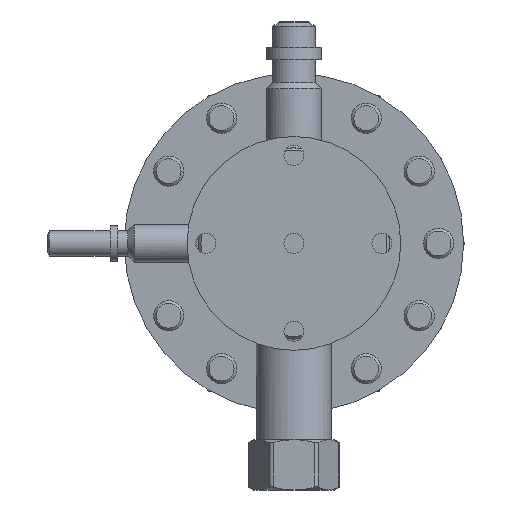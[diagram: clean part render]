
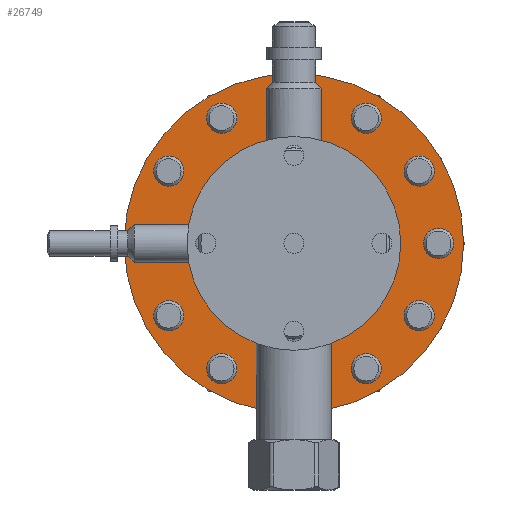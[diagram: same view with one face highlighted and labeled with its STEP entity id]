
A CAD part, front view. The second image highlights one B-rep face of the part: STEP entity #26749.
In plain terms, the highlighted planar face has unit normal (0, -1, 0).
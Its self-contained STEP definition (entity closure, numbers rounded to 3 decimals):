
#2634=FACE_BOUND('',#5941,.T.);
#2635=FACE_BOUND('',#5942,.T.);
#2636=FACE_BOUND('',#5943,.T.);
#2637=FACE_BOUND('',#5944,.T.);
#2638=FACE_BOUND('',#5945,.T.);
#2639=FACE_BOUND('',#5946,.T.);
#2640=FACE_BOUND('',#5947,.T.);
#2641=FACE_BOUND('',#5948,.T.);
#2642=FACE_BOUND('',#5949,.T.);
#2643=FACE_BOUND('',#5950,.T.);
#2644=FACE_BOUND('',#5951,.T.);
#2645=FACE_BOUND('',#5952,.T.);
#2646=FACE_BOUND('',#5953,.T.);
#4187=FACE_OUTER_BOUND('',#5940,.T.);
#5940=EDGE_LOOP('',(#24345));
#5941=EDGE_LOOP('',(#24346));
#5942=EDGE_LOOP('',(#24347));
#5943=EDGE_LOOP('',(#24348));
#5944=EDGE_LOOP('',(#24349));
#5945=EDGE_LOOP('',(#24350));
#5946=EDGE_LOOP('',(#24351));
#5947=EDGE_LOOP('',(#24352));
#5948=EDGE_LOOP('',(#24353));
#5949=EDGE_LOOP('',(#24354));
#5950=EDGE_LOOP('',(#24355));
#5951=EDGE_LOOP('',(#24356));
#5952=EDGE_LOOP('',(#24357));
#5953=EDGE_LOOP('',(#24358));
#9975=CIRCLE('',#27868,41.451);
#10019=CIRCLE('',#27973,6.);
#10028=CIRCLE('',#27999,6.);
#10037=CIRCLE('',#28025,6.);
#10046=CIRCLE('',#28051,6.);
#10055=CIRCLE('',#28077,6.);
#10064=CIRCLE('',#28103,6.);
#10073=CIRCLE('',#28129,6.);
#10082=CIRCLE('',#28155,6.);
#10091=CIRCLE('',#28181,6.);
#10100=CIRCLE('',#28207,6.);
#10109=CIRCLE('',#28233,6.);
#10118=CIRCLE('',#28258,6.);
#10126=CIRCLE('',#28283,67.5);
#12465=VERTEX_POINT('',#59247);
#12525=VERTEX_POINT('',#59563);
#12540=VERTEX_POINT('',#59646);
#12555=VERTEX_POINT('',#59729);
#12570=VERTEX_POINT('',#59812);
#12585=VERTEX_POINT('',#59895);
#12600=VERTEX_POINT('',#59978);
#12615=VERTEX_POINT('',#60061);
#12630=VERTEX_POINT('',#60144);
#12645=VERTEX_POINT('',#60227);
#12660=VERTEX_POINT('',#60310);
#12675=VERTEX_POINT('',#60393);
#12690=VERTEX_POINT('',#60475);
#12704=VERTEX_POINT('',#60556);
#16190=EDGE_CURVE('',#12465,#12465,#9975,.T.);
#16270=EDGE_CURVE('',#12525,#12525,#10019,.T.);
#16297=EDGE_CURVE('',#12540,#12540,#10028,.T.);
#16324=EDGE_CURVE('',#12555,#12555,#10037,.T.);
#16351=EDGE_CURVE('',#12570,#12570,#10046,.T.);
#16378=EDGE_CURVE('',#12585,#12585,#10055,.T.);
#16405=EDGE_CURVE('',#12600,#12600,#10064,.T.);
#16432=EDGE_CURVE('',#12615,#12615,#10073,.T.);
#16459=EDGE_CURVE('',#12630,#12630,#10082,.T.);
#16486=EDGE_CURVE('',#12645,#12645,#10091,.T.);
#16513=EDGE_CURVE('',#12660,#12660,#10100,.T.);
#16540=EDGE_CURVE('',#12675,#12675,#10109,.T.);
#16567=EDGE_CURVE('',#12690,#12690,#10118,.T.);
#16593=EDGE_CURVE('',#12704,#12704,#10126,.T.);
#24345=ORIENTED_EDGE('',*,*,#16593,.F.);
#24346=ORIENTED_EDGE('',*,*,#16190,.T.);
#24347=ORIENTED_EDGE('',*,*,#16270,.T.);
#24348=ORIENTED_EDGE('',*,*,#16297,.T.);
#24349=ORIENTED_EDGE('',*,*,#16324,.T.);
#24350=ORIENTED_EDGE('',*,*,#16351,.T.);
#24351=ORIENTED_EDGE('',*,*,#16378,.T.);
#24352=ORIENTED_EDGE('',*,*,#16405,.T.);
#24353=ORIENTED_EDGE('',*,*,#16432,.T.);
#24354=ORIENTED_EDGE('',*,*,#16459,.T.);
#24355=ORIENTED_EDGE('',*,*,#16486,.T.);
#24356=ORIENTED_EDGE('',*,*,#16513,.T.);
#24357=ORIENTED_EDGE('',*,*,#16540,.T.);
#24358=ORIENTED_EDGE('',*,*,#16567,.T.);
#24994=PLANE('',#28282);
#26749=ADVANCED_FACE('',(#4187,#2634,#2635,#2636,#2637,#2638,#2639,#2640,
#2641,#2642,#2643,#2644,#2645,#2646),#24994,.F.);
#27868=AXIS2_PLACEMENT_3D('',#59248,#32189,#32190);
#27973=AXIS2_PLACEMENT_3D('',#59564,#32409,#32410);
#27999=AXIS2_PLACEMENT_3D('',#59647,#32467,#32468);
#28025=AXIS2_PLACEMENT_3D('',#59730,#32525,#32526);
#28051=AXIS2_PLACEMENT_3D('',#59813,#32583,#32584);
#28077=AXIS2_PLACEMENT_3D('',#59896,#32641,#32642);
#28103=AXIS2_PLACEMENT_3D('',#59979,#32699,#32700);
#28129=AXIS2_PLACEMENT_3D('',#60062,#32757,#32758);
#28155=AXIS2_PLACEMENT_3D('',#60145,#32815,#32816);
#28181=AXIS2_PLACEMENT_3D('',#60228,#32873,#32874);
#28207=AXIS2_PLACEMENT_3D('',#60311,#32931,#32932);
#28233=AXIS2_PLACEMENT_3D('',#60394,#32989,#32990);
#28258=AXIS2_PLACEMENT_3D('',#60476,#33045,#33046);
#28282=AXIS2_PLACEMENT_3D('',#60555,#33099,#33100);
#28283=AXIS2_PLACEMENT_3D('',#60557,#33101,#33102);
#32189=DIRECTION('center_axis',(0.,1.,0.));
#32190=DIRECTION('ref_axis',(0.,0.,-1.));
#32409=DIRECTION('center_axis',(0.,1.,0.));
#32410=DIRECTION('ref_axis',(-0.5,0.,0.866));
#32467=DIRECTION('center_axis',(0.,1.,0.));
#32468=DIRECTION('ref_axis',(-0.866,0.,0.5));
#32525=DIRECTION('center_axis',(0.,1.,0.));
#32526=DIRECTION('ref_axis',(-1.,0.,0.));
#32583=DIRECTION('center_axis',(0.,1.,0.));
#32584=DIRECTION('ref_axis',(-0.866,0.,-0.5));
#32641=DIRECTION('center_axis',(0.,1.,0.));
#32642=DIRECTION('ref_axis',(-0.5,0.,-0.866));
#32699=DIRECTION('center_axis',(0.,1.,0.));
#32700=DIRECTION('ref_axis',(0.,0.,
-1.));
#32757=DIRECTION('center_axis',(0.,1.,0.));
#32758=DIRECTION('ref_axis',(0.5,0.,-0.866));
#32815=DIRECTION('center_axis',(0.,1.,0.));
#32816=DIRECTION('ref_axis',(0.866,0.,-0.5));
#32873=DIRECTION('center_axis',(0.,1.,0.));
#32874=DIRECTION('ref_axis',(1.,0.,0.));
#32931=DIRECTION('center_axis',(0.,1.,0.));
#32932=DIRECTION('ref_axis',(0.866,0.,0.5));
#32989=DIRECTION('center_axis',(0.,1.,0.));
#32990=DIRECTION('ref_axis',(0.5,0.,0.866));
#33045=DIRECTION('center_axis',(0.,1.,0.));
#33046=DIRECTION('ref_axis',(0.,0.,
1.));
#33099=DIRECTION('center_axis',(0.,1.,0.));
#33100=DIRECTION('ref_axis',(0.,0.,-1.));
#33101=DIRECTION('center_axis',(0.,1.,0.));
#33102=DIRECTION('ref_axis',(0.,0.,-1.));
#59247=CARTESIAN_POINT('',(0.,335.,-41.451));
#59248=CARTESIAN_POINT('Origin',(0.,335.,0.));
#59563=CARTESIAN_POINT('',(-25.75,335.,44.6));
#59564=CARTESIAN_POINT('Origin',(-28.75,335.,49.796));
#59646=CARTESIAN_POINT('',(-44.6,335.,25.75));
#59647=CARTESIAN_POINT('Origin',(-49.796,335.,28.75));
#59729=CARTESIAN_POINT('',(-51.5,335.,0.));
#59730=CARTESIAN_POINT('Origin',(-57.5,335.,0.));
#59812=CARTESIAN_POINT('',(-44.6,335.,-25.75));
#59813=CARTESIAN_POINT('Origin',(-49.796,335.,-28.75));
#59895=CARTESIAN_POINT('',(-25.75,335.,-44.6));
#59896=CARTESIAN_POINT('Origin',(-28.75,335.,-49.796));
#59978=CARTESIAN_POINT('',(0.,335.,-51.5));
#59979=CARTESIAN_POINT('Origin',(0.,335.,-57.5));
#60061=CARTESIAN_POINT('',(25.75,335.,-44.6));
#60062=CARTESIAN_POINT('Origin',(28.75,335.,-49.796));
#60144=CARTESIAN_POINT('',(44.6,335.,-25.75));
#60145=CARTESIAN_POINT('Origin',(49.796,335.,-28.75));
#60227=CARTESIAN_POINT('',(51.5,335.,0.));
#60228=CARTESIAN_POINT('Origin',(57.5,335.,0.));
#60310=CARTESIAN_POINT('',(44.6,335.,25.75));
#60311=CARTESIAN_POINT('Origin',(49.796,335.,28.75));
#60393=CARTESIAN_POINT('',(25.75,335.,44.6));
#60394=CARTESIAN_POINT('Origin',(28.75,335.,49.796));
#60475=CARTESIAN_POINT('',(0.,335.,51.5));
#60476=CARTESIAN_POINT('Origin',(0.,335.,57.5));
#60555=CARTESIAN_POINT('Origin',(0.,335.,0.));
#60556=CARTESIAN_POINT('',(0.,335.,67.5));
#60557=CARTESIAN_POINT('Origin',(0.,335.,0.));
